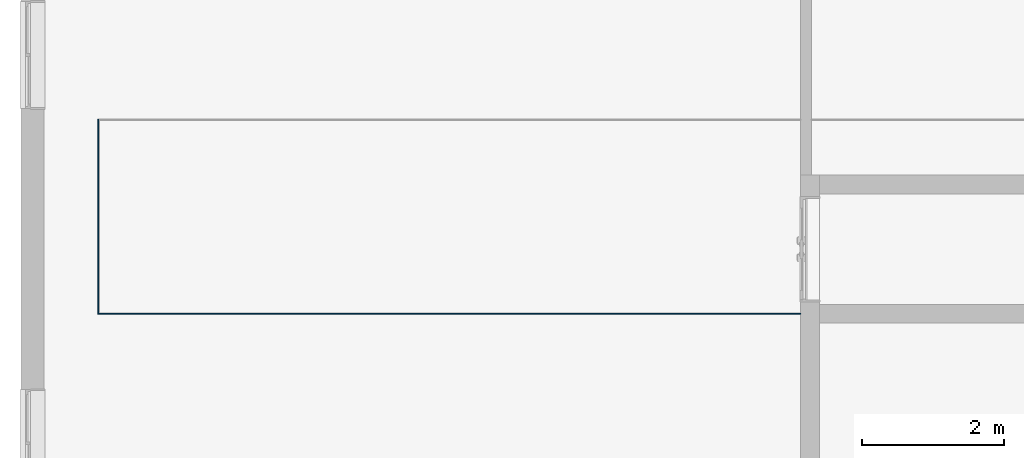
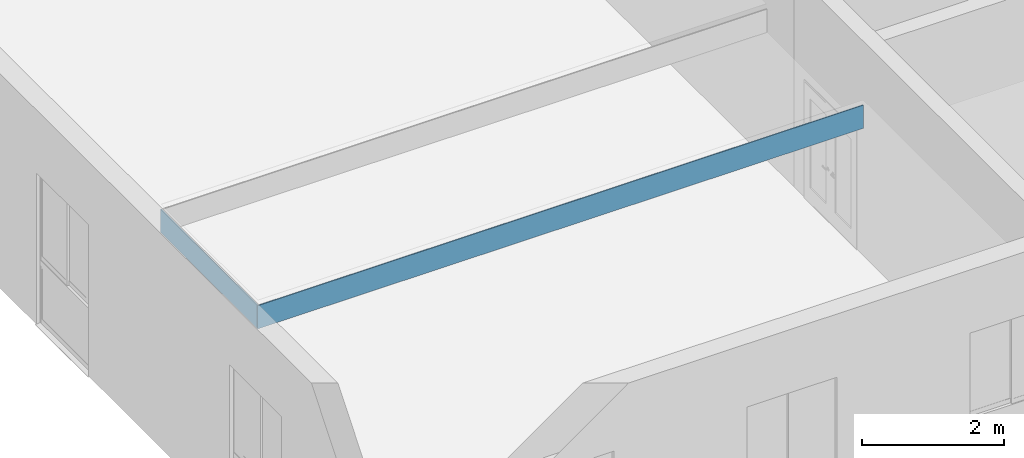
# One storey, part 1 of 15: 2 walls.
"""IFC4X3 building model written with IfcOpenShell, lengths in millimetres."""

from ifc_helpers import new_model, entity, si_unit, converted_unit, derived_unit, direction, frame, frame_2d, origin, place, context, subcontext, project, spatial, rectangle, extrude, material, layer, layer_set, type_object, element, save


model = new_model("IFC4X3")

# Units and contexts
model_context = context("Model", 3, precision=0.01, world=origin(), true_north=direction((6.12303176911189e-17, 1.0)))
body_context = subcontext(model_context, "Body", "Model", "MODEL_VIEW")
ifc_project = project(units=[si_unit("LENGTHUNIT", "METRE", prefix="MILLI"), si_unit("AREAUNIT", "SQUARE_METRE"), si_unit("VOLUMEUNIT", "CUBIC_METRE"), converted_unit("PLANEANGLEUNIT", "DEGREE", entity("IfcPlaneAngleMeasure", 0.0174532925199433), si_unit("PLANEANGLEUNIT", "RADIAN"), dimensions=[0, 0, 0, 0, 0, 0, 0]), si_unit("MASSUNIT", "GRAM", prefix="KILO"), derived_unit("MASSDENSITYUNIT", [(si_unit("MASSUNIT", "GRAM", prefix="KILO"), 1), (si_unit("LENGTHUNIT", "METRE"), -3)]), derived_unit("IONCONCENTRATIONUNIT", [(si_unit("MASSUNIT", "GRAM", prefix="KILO"), 1), (si_unit("LENGTHUNIT", "METRE"), -3)]), derived_unit("MOMENTOFINERTIAUNIT", [(si_unit("LENGTHUNIT", "METRE"), 4)]), si_unit("TIMEUNIT", "SECOND"), si_unit("FREQUENCYUNIT", "HERTZ"), si_unit("THERMODYNAMICTEMPERATUREUNIT", "DEGREE_CELSIUS"), derived_unit("THERMALTRANSMITTANCEUNIT", [(si_unit("MASSUNIT", "GRAM", prefix="KILO"), 1), (si_unit("THERMODYNAMICTEMPERATUREUNIT", "KELVIN"), -1), (si_unit("TIMEUNIT", "SECOND"), -3)]), derived_unit("THERMALCONDUCTANCEUNIT", [(si_unit("MASSUNIT", "GRAM", prefix="KILO"), 1), (si_unit("THERMODYNAMICTEMPERATUREUNIT", "KELVIN"), -1), (si_unit("TIMEUNIT", "SECOND"), -3), (si_unit("LENGTHUNIT", "METRE"), 1)]), derived_unit("VOLUMETRICFLOWRATEUNIT", [(si_unit("LENGTHUNIT", "METRE", prefix="DECI"), 3), (si_unit("TIMEUNIT", "SECOND"), -1)]), derived_unit("MASSFLOWRATEUNIT", [(si_unit("MASSUNIT", "GRAM", prefix="KILO"), 1), (si_unit("TIMEUNIT", "SECOND"), -1)]), derived_unit("ROTATIONALFREQUENCYUNIT", [(si_unit("TIMEUNIT", "SECOND"), -1)]), si_unit("ELECTRICCURRENTUNIT", "AMPERE"), si_unit("ELECTRICVOLTAGEUNIT", "VOLT"), si_unit("POWERUNIT", "WATT"), si_unit("FORCEUNIT", "NEWTON", prefix="KILO"), si_unit("ILLUMINANCEUNIT", "LUX"), si_unit("LUMINOUSFLUXUNIT", "LUMEN"), si_unit("LUMINOUSINTENSITYUNIT", "CANDELA"), si_unit("ENERGYUNIT", "JOULE"), derived_unit("USERDEFINED", [(si_unit("MASSUNIT", "GRAM", prefix="KILO"), -1), (si_unit("LENGTHUNIT", "METRE"), -2), (si_unit("TIMEUNIT", "SECOND"), 3), (si_unit("LUMINOUSFLUXUNIT", "LUMEN"), 1)]), derived_unit("USERDEFINED", [(si_unit("MASSUNIT", "GRAM", prefix="KILO"), 1), (si_unit("TIMEUNIT", "SECOND"), -3), (si_unit("LENGTHUNIT", "METRE"), 3), (si_unit("ELECTRICCURRENTUNIT", "AMPERE"), -2)]), derived_unit("SOUNDPOWERUNIT", [(si_unit("MASSUNIT", "GRAM", prefix="KILO"), 1), (si_unit("TIMEUNIT", "SECOND"), -3), (si_unit("LENGTHUNIT", "METRE"), 2)]), derived_unit("SOUNDPRESSUREUNIT", [(si_unit("MASSUNIT", "GRAM", prefix="KILO"), 1), (si_unit("LENGTHUNIT", "METRE"), -1), (si_unit("TIMEUNIT", "SECOND"), -2)]), derived_unit("LINEARVELOCITYUNIT", [(si_unit("LENGTHUNIT", "METRE"), 1), (si_unit("TIMEUNIT", "SECOND"), -1)]), si_unit("PRESSUREUNIT", "PASCAL"), derived_unit("USERDEFINED", [(si_unit("MASSUNIT", "GRAM", prefix="KILO"), 1), (si_unit("LENGTHUNIT", "METRE"), -2), (si_unit("TIMEUNIT", "SECOND"), -2)]), derived_unit("LINEARFORCEUNIT", [(si_unit("MASSUNIT", "GRAM", prefix="KILO"), 1), (si_unit("TIMEUNIT", "SECOND"), -2)]), derived_unit("PLANARFORCEUNIT", [(si_unit("MASSUNIT", "GRAM", prefix="KILO"), 1), (si_unit("LENGTHUNIT", "METRE"), -1), (si_unit("TIMEUNIT", "SECOND"), -2)]), derived_unit("SPECIFICHEATCAPACITYUNIT", [(si_unit("THERMODYNAMICTEMPERATUREUNIT", "KELVIN"), -1), (si_unit("LENGTHUNIT", "METRE"), 2), (si_unit("TIMEUNIT", "SECOND"), -2)]), derived_unit("HEATFLUXDENSITYUNIT", [(si_unit("MASSUNIT", "GRAM", prefix="KILO"), 1), (si_unit("TIMEUNIT", "SECOND"), -3)]), derived_unit("HEATINGVALUEUNIT", [(si_unit("LENGTHUNIT", "METRE"), 2), (si_unit("TIMEUNIT", "SECOND"), -2)]), derived_unit("VAPORPERMEABILITYUNIT", [(si_unit("LENGTHUNIT", "METRE"), -1), (si_unit("TIMEUNIT", "SECOND"), 1)]), derived_unit("DYNAMICVISCOSITYUNIT", [(si_unit("MASSUNIT", "GRAM", prefix="KILO"), 1), (si_unit("TIMEUNIT", "SECOND"), -1), (si_unit("LENGTHUNIT", "METRE"), -1)]), derived_unit("THERMALEXPANSIONCOEFFICIENTUNIT", [(si_unit("THERMODYNAMICTEMPERATUREUNIT", "KELVIN"), -1)]), derived_unit("MODULUSOFELASTICITYUNIT", [(si_unit("MASSUNIT", "GRAM", prefix="KILO"), 1), (si_unit("LENGTHUNIT", "METRE"), -1), (si_unit("TIMEUNIT", "SECOND"), -2)]), derived_unit("ISOTHERMALMOISTURECAPACITYUNIT", [(si_unit("MASSUNIT", "GRAM", prefix="KILO"), -1), (si_unit("LENGTHUNIT", "METRE"), 3)]), derived_unit("MOISTUREDIFFUSIVITYUNIT", [(si_unit("TIMEUNIT", "SECOND"), -1), (si_unit("LENGTHUNIT", "METRE"), 2)]), derived_unit("AREADENSITYUNIT", [(si_unit("MASSUNIT", "GRAM", prefix="KILO"), 1), (si_unit("LENGTHUNIT", "METRE"), 2)]), derived_unit("MASSPERLENGTHUNIT", [(si_unit("MASSUNIT", "GRAM", prefix="KILO"), 1), (si_unit("LENGTHUNIT", "METRE"), -1)]), derived_unit("THERMALRESISTANCEUNIT", [(si_unit("MASSUNIT", "GRAM", prefix="KILO"), -1), (si_unit("TIMEUNIT", "SECOND"), 3), (si_unit("THERMODYNAMICTEMPERATUREUNIT", "KELVIN"), 1)]), derived_unit("ACCELERATIONUNIT", [(si_unit("LENGTHUNIT", "METRE"), 1), (si_unit("TIMEUNIT", "SECOND"), -2)]), derived_unit("ANGULARVELOCITYUNIT", [(si_unit("TIMEUNIT", "SECOND"), -1), (si_unit("PLANEANGLEUNIT", "RADIAN"), 1)]), derived_unit("LINEARSTIFFNESSUNIT", [(si_unit("MASSUNIT", "GRAM", prefix="KILO"), 1), (si_unit("TIMEUNIT", "SECOND"), -2)]), derived_unit("WARPINGCONSTANTUNIT", [(si_unit("LENGTHUNIT", "METRE"), 6)]), derived_unit("LINEARMOMENTUNIT", [(si_unit("MASSUNIT", "GRAM", prefix="KILO"), 1), (si_unit("LENGTHUNIT", "METRE"), 1), (si_unit("TIMEUNIT", "SECOND"), -2)]), derived_unit("TORQUEUNIT", [(si_unit("MASSUNIT", "GRAM", prefix="KILO"), 1), (si_unit("LENGTHUNIT", "METRE"), 2), (si_unit("TIMEUNIT", "SECOND"), -2)])], contexts=[model_context])

# Site, building, storey
site_placement = place(None, origin())
site = spatial("IfcSite", under=ifc_project, at=site_placement, Name="Default", CompositionType="ELEMENT")
building_placement = place(site_placement, origin())
building = spatial("IfcBuilding", under=site, at=building_placement, Name="事務所ビル", CompositionType="ELEMENT")
storey_placement = place(building_placement, frame((0.0, 0.0, 4300.0)))
storey = spatial("IfcBuildingStorey", under=building, at=storey_placement, Name="2FL", CompositionType="ELEMENT", Elevation=4300.0)

# Walls
ifc_material = material(Name="<Unnamed>")
ifc_layer = layer(ifc_material, 15.0, Name="Layer")
ifc_layer_set = layer_set([ifc_layer], Name="標準壁:GB-R15")
wall_type = type_object("IfcWallType", Name="標準壁:GB-R15", PredefinedType="STANDARD", material=ifc_layer_set)
wall_1_placement = place(storey_placement, frame((10788.0, 5460.0, 2200.0), z_axis=(0.0, 0.0, 1.0), x_axis=(-1.0, 0.0, 0.0)))
element("IfcWall", 1, at=wall_1_placement, inside=storey, type_object=wall_type, material=ifc_layer_set, Name="標準壁:GB-R15", ObjectType="標準壁:GB-R15", PredefinedType="NOTDEFINED", context=body_context, shape_type="SweptSolid", body=[
    extrude(rectangle(XDim=9885.49999999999, YDim=15.0000000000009, at=frame_2d((4942.75, 1.19904086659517e-14), x_axis=(-1.0, 0.0))), origin(), (0.0, 0.0, 1.0), 400.0),
])
wall_2_placement = place(storey_placement, frame((910.0, 5467.4999999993, 2200.0), z_axis=(0.0, 0.0, 1.0), x_axis=(0.0, 1.0, 0.0)))
element("IfcWall", 2, at=wall_2_placement, inside=storey, type_object=wall_type, material=ifc_layer_set, Name="標準壁:GB-R15", ObjectType="標準壁:GB-R15", PredefinedType="NOTDEFINED", context=body_context, shape_type="SweptSolid", body=[
    extrude(rectangle(XDim=2729.99999999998, YDim=15.0000000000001, at=frame_2d((1364.99999999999, 0.0), x_axis=(-1.0, 0.0))), origin(), (0.0, 0.0, 1.0), 400.0),
])

save(model, "model.ifc")
